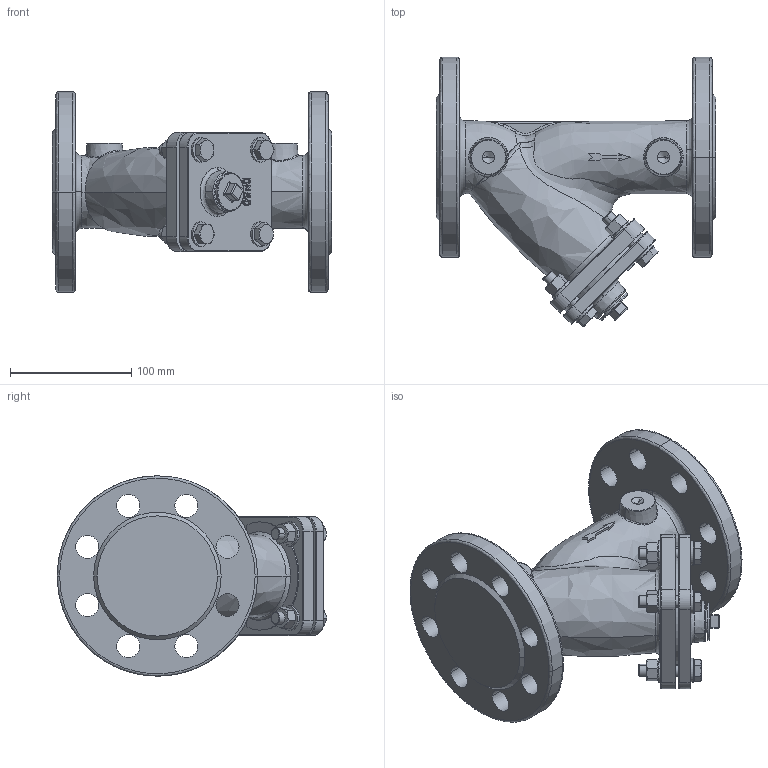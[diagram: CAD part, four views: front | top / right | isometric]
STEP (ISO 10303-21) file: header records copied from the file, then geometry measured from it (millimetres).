
FILE_DESCRIPTION (( 'STEP AP203' ), '1' );
FILE_NAME ('11.000C DN50.STEP', '2022-09-05T07:55:23', ( '' ), ( '' ), 'SwSTEP 2.0', 'SolidWorks 2017', '' );
FILE_SCHEMA (( 'CONFIG_CONTROL_DESIGN' ));
Products named in the file (1): 11.000C DN50
Bounding box: 230 x 222.04 x 165 mm (x, y, z)
Volume: 1807270.3 mm3; surface area: 205788.3 mm2
Topology: 1 solids, 7 shells, 585 faces, 1424 edges, 889 vertices
Faces by surface type: plane 200, cylinder 178, bspline 121, cone 86
Entity records: 47367 total; most frequent: CARTESIAN_POINT 34578, ORIENTED_EDGE 2824, DIRECTION 2369, EDGE_CURVE 1412, AXIS2_PLACEMENT_3D 952, VERTEX_POINT 889, EDGE_LOOP 681, ADVANCED_FACE 585
